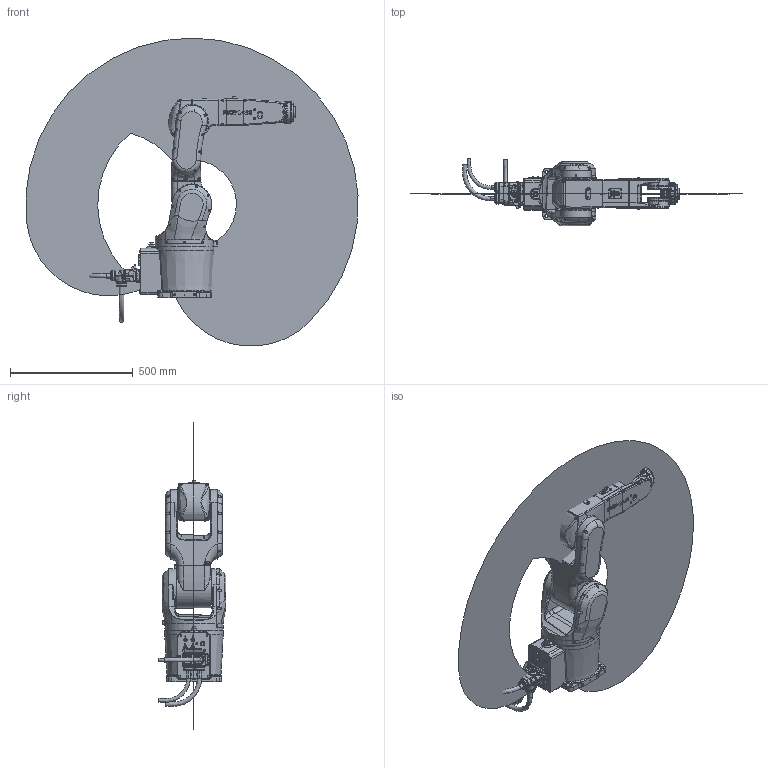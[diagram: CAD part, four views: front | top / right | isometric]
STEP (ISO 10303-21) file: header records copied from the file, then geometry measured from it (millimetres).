
FILE_DESCRIPTION(/* description */ (''),/* implementation_level */ '2;1');
FILE_NAME(/* name */ 'XB7h-R707-XBC3线束 简化模型(20220426).stp',/* time_stamp */ '2022-04-26T15:57:59+08:00',/* author */ (''),/* organization */ (''),/* preprocessor_version */ 'ST-DEVELOPER v16',/* originating_system */ 'SIEMENS PLM Software NX 10.0',/* authorisation */ '');
FILE_SCHEMA (('CONFIG_CONTROL_DESIGN'));
Products named in the file (9): XB7-shuchu-B; XB7&12-3Dwork-A; XB7-shouwan-A; XB7-xiaobiqian-Alogo; XB7&12-xiaobihou-A; XB7&12-dabi-A; XB7&12-yao-A; XB7&12-base-A; XB7h-R707-XBC3线束 简化模型(
20220426)
Assembly tree (8 placements, depth 2):
  XB7h-R707-XBC3线束 简化模型(
20220426)
    XB7&12-base-A
    XB7&12-yao-A
    XB7&12-dabi-A
    XB7&12-xiaobihou-A
    XB7-xiaobiqian-Alogo
    XB7-shouwan-A
    XB7&12-3Dwork-A
    XB7-shuchu-B
Bounding box: 1351.29 x 276 x 1252.93 mm (x, y, z)
Volume: 30627160.4 mm3; surface area: 2479498.8 mm2
Topology: 9 solids, 45 shells, 4443 faces, 10690 edges, 6460 vertices
Faces by surface type: plane 1314, cylinder 1261, bspline 981, torus 347, cone 333, extrusion 131, sphere 76
Full cylindrical faces by diameter (mm): 3.3 x2, 4.2 x8, 4.826 x1, 5 x2, 5.5 x50, 6 x2, 7 x17, 8.5 x10, 9.5 x3, 9.6 x1, 10 x4, 10.701 x2, 12.8 x1, 13 x1, 13.5 x4, 15 x4, 17.5 x1, 18.5 x1, 22 x1, 50 x2, 55 x1, 86 x2, 100 x2, 119 x1, 120 x1, 170 x1
Entity records: 194597 total; most frequent: CARTESIAN_POINT 100450, ORIENTED_EDGE 20494, DIRECTION 17375, EDGE_CURVE 10250, AXIS2_PLACEMENT_3D 6979, VERTEX_POINT 6375, EDGE_LOOP 4945, ADVANCED_FACE 4433
